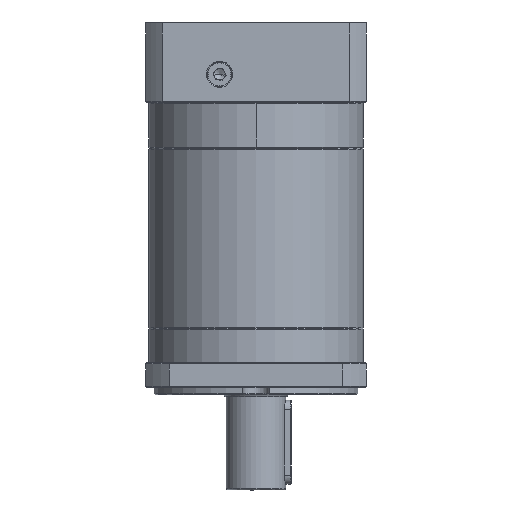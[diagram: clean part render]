
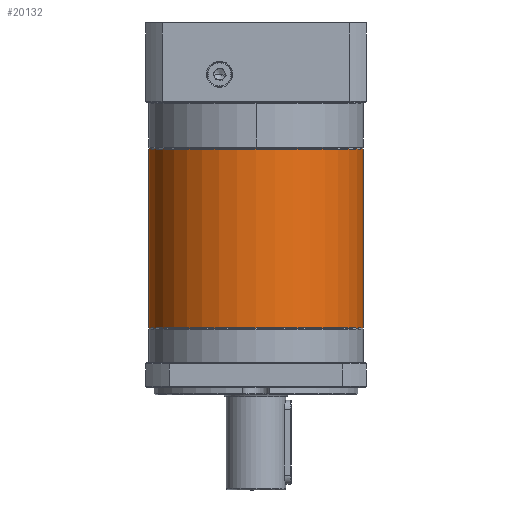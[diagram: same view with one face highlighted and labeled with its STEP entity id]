
A CAD part, front view. The second image highlights one B-rep face of the part: STEP entity #20132.
In plain terms, the highlighted cylindrical face has radius 57.5 mm (diameter 115 mm), a partial arc.
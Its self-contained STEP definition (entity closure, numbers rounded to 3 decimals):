
#4401 = DIRECTION ( 'NONE',  ( -1., 0., 0. ) ) ;
#5694 = ORIENTED_EDGE ( 'NONE', *, *, #39995, .T. ) ;
#8788 = CARTESIAN_POINT ( 'NONE',  ( -3.294, 51.461, -146.692 ) ) ;
#11254 = DIRECTION ( 'NONE',  ( -1., 0., 0. ) ) ;
#14330 = ORIENTED_EDGE ( 'NONE', *, *, #106188, .T. ) ;
#20132 = ADVANCED_FACE ( 'NONE', ( #32197 ), #30520, .T. ) ;
#26769 = CARTESIAN_POINT ( 'NONE',  ( -3.294, 51.461, -50.981 ) ) ;
#30520 = CYLINDRICAL_SURFACE ( 'NONE', #78294, 57.5 ) ;
#30570 = DIRECTION ( 'NONE',  ( 0., 0., 1. ) ) ;
#31406 = CARTESIAN_POINT ( 'NONE',  ( 111.706, 51.461, -50.981 ) ) ;
#31471 = LINE ( 'NONE', #75744, #47689 ) ;
#32197 = FACE_OUTER_BOUND ( 'NONE', #56833, .T. ) ;
#34981 = ORIENTED_EDGE ( 'NONE', *, *, #63049, .F. ) ;
#38225 = CIRCLE ( 'NONE', #55537, 57.5 ) ;
#39995 = EDGE_CURVE ( 'NONE', #60002, #112950, #90627, .T. ) ;
#44424 = CARTESIAN_POINT ( 'NONE',  ( 54.206, -6.039, -50.981 ) ) ;
#47689 = VECTOR ( 'NONE', #129012, 1000. ) ;
#48127 = VERTEX_POINT ( 'NONE', #8788 ) ;
#48811 = DIRECTION ( 'NONE',  ( -1., 0., 0. ) ) ;
#50150 = CARTESIAN_POINT ( 'NONE',  ( 54.206, 51.461, -50.981 ) ) ;
#54632 = VERTEX_POINT ( 'NONE', #111141 ) ;
#55537 = AXIS2_PLACEMENT_3D ( 'NONE', #92141, #30570, #11254 ) ;
#56533 = VERTEX_POINT ( 'NONE', #31406 ) ;
#56833 = EDGE_LOOP ( 'NONE', ( #34981, #14330, #5694, #111966, #83314 ) ) ;
#59263 = DIRECTION ( 'NONE',  ( 0., 0., -1. ) ) ;
#59404 = EDGE_CURVE ( 'NONE', #112950, #48127, #31471, .T. ) ;
#60002 = VERTEX_POINT ( 'NONE', #44424 ) ;
#63049 = EDGE_CURVE ( 'NONE', #56533, #54632, #81847, .T. ) ;
#75744 = CARTESIAN_POINT ( 'NONE',  ( -3.294, 51.461, -50.481 ) ) ;
#78294 = AXIS2_PLACEMENT_3D ( 'NONE', #108962, #119199, #48811 ) ;
#80910 = AXIS2_PLACEMENT_3D ( 'NONE', #90979, #119059, #4401 ) ;
#81847 = LINE ( 'NONE', #110380, #94758 ) ;
#83314 = ORIENTED_EDGE ( 'NONE', *, *, #126353, .T. ) ;
#90627 = CIRCLE ( 'NONE', #98380, 57.5 ) ;
#90979 = CARTESIAN_POINT ( 'NONE',  ( 54.206, 51.461, -50.981 ) ) ;
#90993 = DIRECTION ( 'NONE',  ( 0., 0., -1. ) ) ;
#92141 = CARTESIAN_POINT ( 'NONE',  ( 54.206, 51.461, -146.692 ) ) ;
#94758 = VECTOR ( 'NONE', #59263, 1000. ) ;
#98380 = AXIS2_PLACEMENT_3D ( 'NONE', #50150, #90993, #110226 ) ;
#106188 = EDGE_CURVE ( 'NONE', #56533, #60002, #107877, .T. ) ;
#107877 = CIRCLE ( 'NONE', #80910, 57.5 ) ;
#108962 = CARTESIAN_POINT ( 'NONE',  ( 54.206, 51.461, -50.481 ) ) ;
#110226 = DIRECTION ( 'NONE',  ( -1., 0., 0. ) ) ;
#110380 = CARTESIAN_POINT ( 'NONE',  ( 111.706, 51.461, -50.481 ) ) ;
#111141 = CARTESIAN_POINT ( 'NONE',  ( 111.706, 51.461, -146.692 ) ) ;
#111966 = ORIENTED_EDGE ( 'NONE', *, *, #59404, .T. ) ;
#112950 = VERTEX_POINT ( 'NONE', #26769 ) ;
#119059 = DIRECTION ( 'NONE',  ( 0., 0., -1. ) ) ;
#119199 = DIRECTION ( 'NONE',  ( 0., 0., -1. ) ) ;
#126353 = EDGE_CURVE ( 'NONE', #48127, #54632, #38225, .T. ) ;
#129012 = DIRECTION ( 'NONE',  ( 0., 0., -1. ) ) ;
